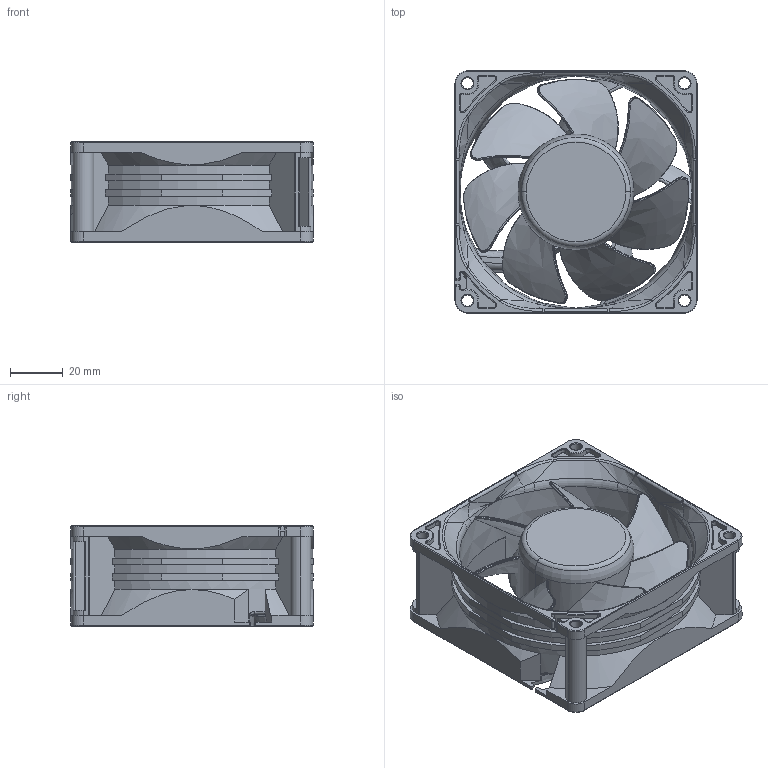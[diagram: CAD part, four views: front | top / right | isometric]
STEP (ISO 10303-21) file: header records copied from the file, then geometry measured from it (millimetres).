
FILE_DESCRIPTION (( 'STEP AP203' ), '1' );
FILE_NAME ('9238 GV RIBBED.STEP', '2017-02-08T01:38:06', ( '' ), ( '' ), 'SwSTEP 2.0', 'SolidWorks 2017', '' );
FILE_SCHEMA (( 'CONFIG_CONTROL_DESIGN' ));
Length unit declared in the file: millimetre
Products named in the file (1): 9238 GV RIBBED
Bounding box: 92 x 92 x 38 mm (x, y, z)
Volume: 94722 mm3; surface area: 60593.7 mm2
Topology: 8 solids, 9 shells, 690 faces, 1810 edges, 1114 vertices
Faces by surface type: cylinder 194, bspline 190, plane 135, torus 131, cone 40
Entity records: 30361 total; most frequent: CARTESIAN_POINT 14681, ORIENTED_EDGE 3574, DIRECTION 2974, EDGE_CURVE 1787, AXIS2_PLACEMENT_3D 1248, VERTEX_POINT 1114, CIRCLE 747, EDGE_LOOP 713
